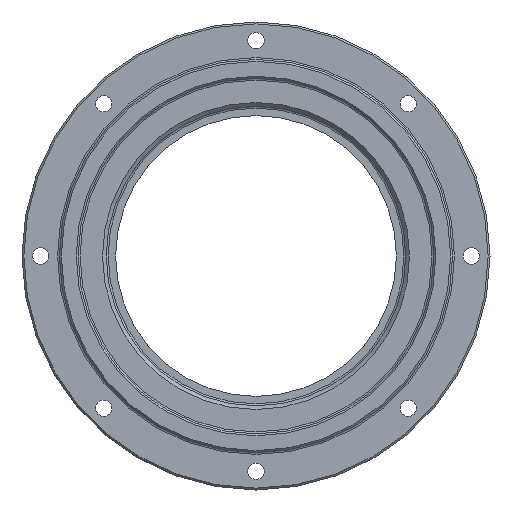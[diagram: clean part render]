
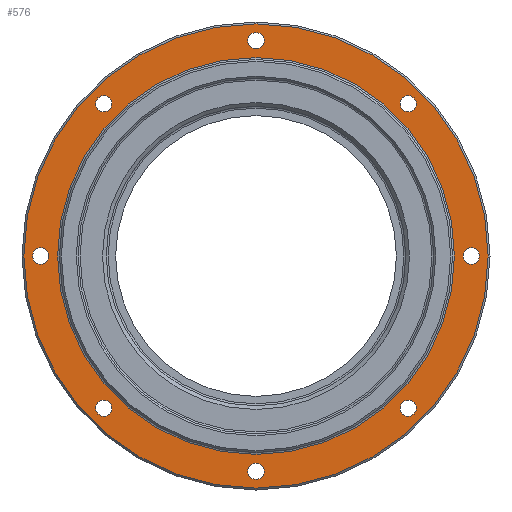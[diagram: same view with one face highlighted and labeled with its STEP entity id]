
A CAD part, left-side view. The second image highlights one B-rep face of the part: STEP entity #576.
In plain terms, the highlighted planar face has unit normal (-1, 0, 0).
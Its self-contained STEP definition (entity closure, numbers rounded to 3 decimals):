
#34=FACE_BOUND('',#171,.T.);
#35=FACE_BOUND('',#172,.T.);
#36=FACE_BOUND('',#173,.T.);
#37=FACE_BOUND('',#174,.T.);
#38=FACE_BOUND('',#175,.T.);
#39=FACE_BOUND('',#176,.T.);
#40=FACE_BOUND('',#177,.T.);
#41=FACE_BOUND('',#178,.T.);
#42=FACE_BOUND('',#179,.T.);
#49=PLANE('',#670);
#124=FACE_OUTER_BOUND('',#170,.T.);
#170=EDGE_LOOP('',(#461));
#171=EDGE_LOOP('',(#462));
#172=EDGE_LOOP('',(#463));
#173=EDGE_LOOP('',(#464));
#174=EDGE_LOOP('',(#465));
#175=EDGE_LOOP('',(#466));
#176=EDGE_LOOP('',(#467));
#177=EDGE_LOOP('',(#468));
#178=EDGE_LOOP('',(#469));
#179=EDGE_LOOP('',(#470));
#240=CIRCLE('',#668,212.);
#242=CIRCLE('',#671,248.);
#243=CIRCLE('',#672,8.75);
#244=CIRCLE('',#673,8.75);
#245=CIRCLE('',#674,8.75);
#246=CIRCLE('',#675,8.75);
#247=CIRCLE('',#676,8.75);
#248=CIRCLE('',#677,8.75);
#249=CIRCLE('',#678,8.75);
#250=CIRCLE('',#679,8.75);
#295=VERTEX_POINT('',#1009);
#296=VERTEX_POINT('',#1014);
#297=VERTEX_POINT('',#1016);
#298=VERTEX_POINT('',#1018);
#299=VERTEX_POINT('',#1020);
#300=VERTEX_POINT('',#1022);
#301=VERTEX_POINT('',#1024);
#302=VERTEX_POINT('',#1026);
#303=VERTEX_POINT('',#1028);
#304=VERTEX_POINT('',#1030);
#357=EDGE_CURVE('',#295,#295,#240,.T.);
#359=EDGE_CURVE('',#296,#296,#242,.T.);
#360=EDGE_CURVE('',#297,#297,#243,.T.);
#361=EDGE_CURVE('',#298,#298,#244,.T.);
#362=EDGE_CURVE('',#299,#299,#245,.T.);
#363=EDGE_CURVE('',#300,#300,#246,.T.);
#364=EDGE_CURVE('',#301,#301,#247,.T.);
#365=EDGE_CURVE('',#302,#302,#248,.T.);
#366=EDGE_CURVE('',#303,#303,#249,.T.);
#367=EDGE_CURVE('',#304,#304,#250,.T.);
#461=ORIENTED_EDGE('',*,*,#359,.F.);
#462=ORIENTED_EDGE('',*,*,#360,.T.);
#463=ORIENTED_EDGE('',*,*,#361,.T.);
#464=ORIENTED_EDGE('',*,*,#362,.T.);
#465=ORIENTED_EDGE('',*,*,#363,.T.);
#466=ORIENTED_EDGE('',*,*,#364,.T.);
#467=ORIENTED_EDGE('',*,*,#365,.T.);
#468=ORIENTED_EDGE('',*,*,#366,.T.);
#469=ORIENTED_EDGE('',*,*,#367,.T.);
#470=ORIENTED_EDGE('',*,*,#357,.F.);
#576=ADVANCED_FACE('',(#124,#34,#35,#36,#37,#38,#39,#40,#41,#42),#49,.T.);
#668=AXIS2_PLACEMENT_3D('',#1011,#818,#819);
#670=AXIS2_PLACEMENT_3D('',#1013,#822,#823);
#671=AXIS2_PLACEMENT_3D('',#1015,#824,#825);
#672=AXIS2_PLACEMENT_3D('',#1017,#826,#827);
#673=AXIS2_PLACEMENT_3D('',#1019,#828,#829);
#674=AXIS2_PLACEMENT_3D('',#1021,#830,#831);
#675=AXIS2_PLACEMENT_3D('',#1023,#832,#833);
#676=AXIS2_PLACEMENT_3D('',#1025,#834,#835);
#677=AXIS2_PLACEMENT_3D('',#1027,#836,#837);
#678=AXIS2_PLACEMENT_3D('',#1029,#838,#839);
#679=AXIS2_PLACEMENT_3D('',#1031,#840,#841);
#818=DIRECTION('center_axis',(-1.,0.,0.));
#819=DIRECTION('ref_axis',(0.,-1.,0.));
#822=DIRECTION('center_axis',(-1.,0.,0.));
#823=DIRECTION('ref_axis',(0.,0.,1.));
#824=DIRECTION('center_axis',(1.,0.,0.));
#825=DIRECTION('ref_axis',(0.,-1.,0.));
#826=DIRECTION('center_axis',(1.,0.,0.));
#827=DIRECTION('ref_axis',(0.,-0.707,-0.707));
#828=DIRECTION('center_axis',(1.,0.,0.));
#829=DIRECTION('ref_axis',(0.,-1.,0.));
#830=DIRECTION('center_axis',(1.,0.,0.));
#831=DIRECTION('ref_axis',(0.,-0.707,0.707));
#832=DIRECTION('center_axis',(1.,0.,0.));
#833=DIRECTION('ref_axis',(0.,0.,1.));
#834=DIRECTION('center_axis',(1.,0.,0.));
#835=DIRECTION('ref_axis',(0.,0.707,0.707));
#836=DIRECTION('center_axis',(1.,0.,0.));
#837=DIRECTION('ref_axis',(0.,1.,0.));
#838=DIRECTION('center_axis',(1.,0.,0.));
#839=DIRECTION('ref_axis',(0.,0.707,-0.707));
#840=DIRECTION('center_axis',(1.,0.,0.));
#841=DIRECTION('ref_axis',(0.,0.,-1.));
#1009=CARTESIAN_POINT('',(30.,0.,212.));
#1011=CARTESIAN_POINT('Origin',(30.,0.,0.));
#1013=CARTESIAN_POINT('Origin',(30.,250.,0.));
#1014=CARTESIAN_POINT('',(30.,248.,0.));
#1015=CARTESIAN_POINT('Origin',(30.,0.,0.));
#1016=CARTESIAN_POINT('',(30.,168.822,-156.447));
#1017=CARTESIAN_POINT('Origin',(30.,162.635,-162.635));
#1018=CARTESIAN_POINT('',(30.,8.75,-230.));
#1019=CARTESIAN_POINT('Origin',(30.,0.,-230.));
#1020=CARTESIAN_POINT('',(30.,-156.447,-168.822));
#1021=CARTESIAN_POINT('Origin',(30.,-162.635,-162.635));
#1022=CARTESIAN_POINT('',(30.,-230.,-8.75));
#1023=CARTESIAN_POINT('Origin',(30.,-230.,0.));
#1024=CARTESIAN_POINT('',(30.,-168.822,156.447));
#1025=CARTESIAN_POINT('Origin',(30.,-162.635,162.635));
#1026=CARTESIAN_POINT('',(30.,-8.75,230.));
#1027=CARTESIAN_POINT('Origin',(30.,0.,230.));
#1028=CARTESIAN_POINT('',(30.,156.447,168.822));
#1029=CARTESIAN_POINT('Origin',(30.,162.635,162.635));
#1030=CARTESIAN_POINT('',(30.,230.,8.75));
#1031=CARTESIAN_POINT('Origin',(30.,230.,0.));
